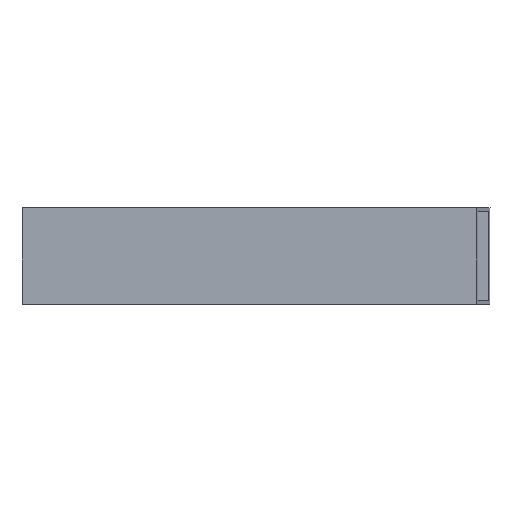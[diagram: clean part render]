
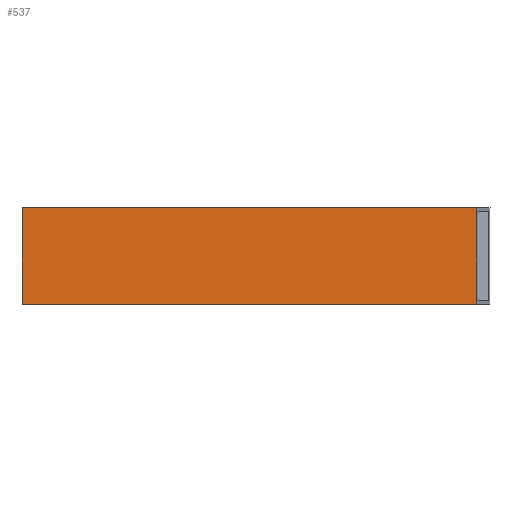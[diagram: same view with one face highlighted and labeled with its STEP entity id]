
A CAD part, top view. The second image highlights one B-rep face of the part: STEP entity #537.
In plain terms, the highlighted planar face has unit normal (0, 0, 1).
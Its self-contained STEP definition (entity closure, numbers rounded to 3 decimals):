
#266=ORIENTED_EDGE('',*,*,#378,.T.);
#267=ORIENTED_EDGE('',*,*,#379,.F.);
#268=ORIENTED_EDGE('',*,*,#374,.F.);
#269=ORIENTED_EDGE('',*,*,#380,.T.);
#310=VECTOR('',#424,1.);
#314=VECTOR('',#430,1.);
#315=VECTOR('',#431,1.);
#316=VECTOR('',#432,1.);
#334=LINE('',#469,#310);
#338=LINE('',#478,#314);
#339=LINE('',#479,#315);
#340=LINE('',#480,#316);
#358=VERTEX_POINT('',#467);
#359=VERTEX_POINT('',#468);
#362=VERTEX_POINT('',#476);
#363=VERTEX_POINT('',#477);
#374=EDGE_CURVE('',#358,#359,#334,.T.);
#378=EDGE_CURVE('',#362,#363,#338,.T.);
#379=EDGE_CURVE('',#359,#363,#339,.T.);
#380=EDGE_CURVE('',#358,#362,#340,.T.);
#399=EDGE_LOOP('',(#266,#267,#268,#269));
#411=FACE_BOUND('',#399,.T.);
#424=DIRECTION('',(-234.513,0.,0.));
#428=DIRECTION('',(0.,0.,1.));
#429=DIRECTION('',(0.,-1.,0.));
#430=DIRECTION('',(-234.513,0.,0.));
#431=DIRECTION('',(0.,50.,0.));
#432=DIRECTION('',(0.,50.,0.));
#467=CARTESIAN_POINT('',(234.513,-25.,10.));
#468=CARTESIAN_POINT('',(0.,-25.,10.));
#469=CARTESIAN_POINT('',(234.513,-25.,10.));
#475=CARTESIAN_POINT('',(130.,25.,10.));
#476=CARTESIAN_POINT('',(234.513,25.,10.));
#477=CARTESIAN_POINT('',(0.,25.,10.));
#478=CARTESIAN_POINT('',(234.513,25.,10.));
#479=CARTESIAN_POINT('',(0.,-25.,10.));
#480=CARTESIAN_POINT('',(234.513,-25.,10.));
#517=AXIS2_PLACEMENT_3D('',#475,#428,#429);
#527=PLANE('',#517);
#537=ADVANCED_FACE('',(#411),#527,.T.);
